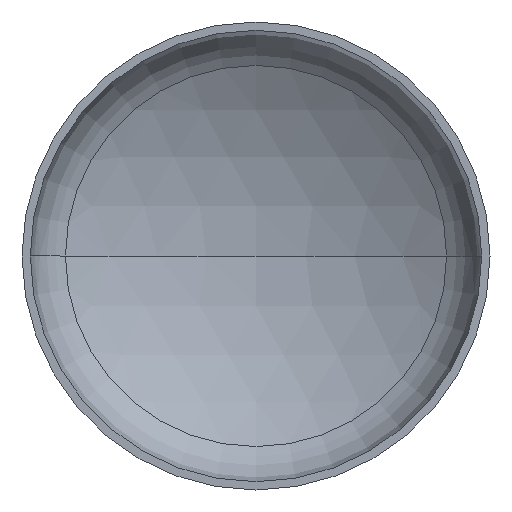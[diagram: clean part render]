
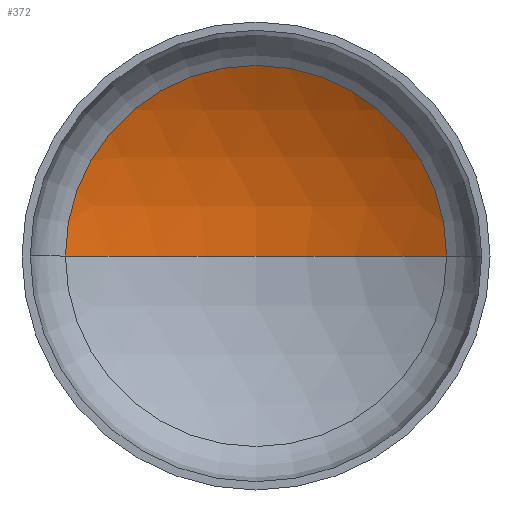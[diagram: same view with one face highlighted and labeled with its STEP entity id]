
A CAD part, front view. The second image highlights one B-rep face of the part: STEP entity #372.
In plain terms, the highlighted spherical face has radius 1440 mm.
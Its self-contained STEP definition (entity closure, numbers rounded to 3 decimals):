
#3 = CARTESIAN_POINT ( 'NONE',  ( 732.979, 336.709, 0. ) ) ;
#14 = AXIS2_PLACEMENT_3D ( 'NONE', #141, #382, #314 ) ;
#17 = VERTEX_POINT ( 'NONE', #376 ) ;
#19 = EDGE_LOOP ( 'NONE', ( #196, #79, #209 ) ) ;
#48 = CARTESIAN_POINT ( 'NONE',  ( 0., -902.784, 0. ) ) ;
#73 = AXIS2_PLACEMENT_3D ( 'NONE', #48, #294, #388 ) ;
#79 = ORIENTED_EDGE ( 'NONE', *, *, #387, .T. ) ;
#81 = DIRECTION ( 'NONE',  ( -1., 0., 0. ) ) ;
#109 = VERTEX_POINT ( 'NONE', #231 ) ;
#113 = AXIS2_PLACEMENT_3D ( 'NONE', #186, #365, #222 ) ;
#131 = CIRCLE ( 'NONE', #113, 1440. ) ;
#141 = CARTESIAN_POINT ( 'NONE',  ( 0., 336.709, 0. ) ) ;
#186 = CARTESIAN_POINT ( 'NONE',  ( 0., -902.784, 0. ) ) ;
#196 = ORIENTED_EDGE ( 'NONE', *, *, #383, .F. ) ;
#203 = VERTEX_POINT ( 'NONE', #3 ) ;
#209 = ORIENTED_EDGE ( 'NONE', *, *, #353, .T. ) ;
#222 = DIRECTION ( 'NONE',  ( -1., 0., 0. ) ) ;
#231 = CARTESIAN_POINT ( 'NONE',  ( 0., 537.216, 0. ) ) ;
#235 = FACE_OUTER_BOUND ( 'NONE', #19, .T. ) ;
#247 = CARTESIAN_POINT ( 'NONE',  ( 0., -902.784, 0. ) ) ;
#265 = DIRECTION ( 'NONE',  ( 0., 0., -1. ) ) ;
#283 = CIRCLE ( 'NONE', #73, 1440. ) ;
#294 = DIRECTION ( 'NONE',  ( 0., 0., 1. ) ) ;
#314 = DIRECTION ( 'NONE',  ( 1., 0., 0. ) ) ;
#353 = EDGE_CURVE ( 'NONE', #203, #17, #354, .T. ) ;
#354 = CIRCLE ( 'NONE', #14, 732.979 ) ;
#365 = DIRECTION ( 'NONE',  ( 0., 0., -1. ) ) ;
#372 = ADVANCED_FACE ( 'NONE', ( #235 ), #407, .F. ) ;
#376 = CARTESIAN_POINT ( 'NONE',  ( -732.979, 336.709, 0. ) ) ;
#382 = DIRECTION ( 'NONE',  ( 0., -1., 0. ) ) ;
#383 = EDGE_CURVE ( 'NONE', #109, #17, #283, .T. ) ;
#387 = EDGE_CURVE ( 'NONE', #109, #203, #131, .T. ) ;
#388 = DIRECTION ( 'NONE',  ( 1., 0., 0. ) ) ;
#404 = AXIS2_PLACEMENT_3D ( 'NONE', #247, #265, #81 ) ;
#407 = SPHERICAL_SURFACE ( 'NONE', #404, 1440. ) ;
